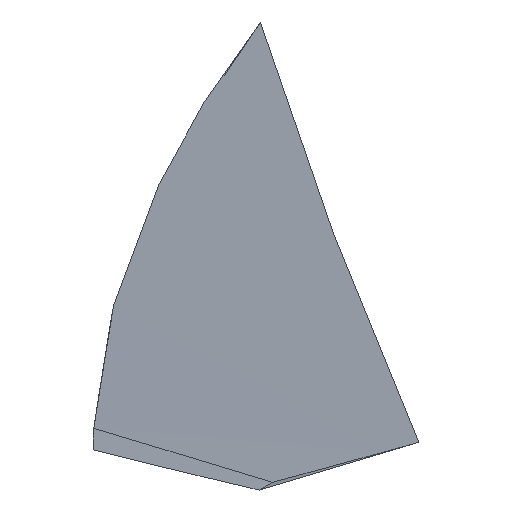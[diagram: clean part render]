
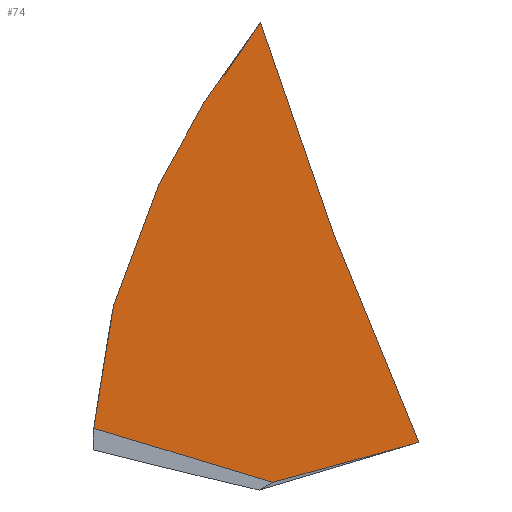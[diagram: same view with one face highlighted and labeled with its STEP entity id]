
A CAD part, isometric view. The second image highlights one B-rep face of the part: STEP entity #74.
In plain terms, the highlighted cylindrical face has radius 99.226 mm (diameter 198.452 mm), a partial arc.
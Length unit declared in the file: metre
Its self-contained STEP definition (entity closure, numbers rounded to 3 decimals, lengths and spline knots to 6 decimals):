
#17=B_SPLINE_CURVE_WITH_KNOTS('',3,(#120,#121,#122,#123),.UNSPECIFIED.,
 .F.,.F.,(4,4),(0.,0.007731),.UNSPECIFIED.);
#20=B_SPLINE_CURVE_WITH_KNOTS('',3,(#140,#141,#142,#143),.UNSPECIFIED.,
 .F.,.F.,(4,4),(0.000887,0.008856),.UNSPECIFIED.);
#21=B_SPLINE_CURVE_WITH_KNOTS('',3,(#146,#147,#148,#149),.UNSPECIFIED.,
 .F.,.F.,(4,4),(0.,0.001377),.UNSPECIFIED.);
#36=ORIENTED_EDGE('',*,*,#46,.T.);
#37=ORIENTED_EDGE('',*,*,#41,.F.);
#38=ORIENTED_EDGE('',*,*,#48,.F.);
#39=ORIENTED_EDGE('',*,*,#44,.F.);
#41=EDGE_CURVE('',#50,#51,#17,.T.);
#44=EDGE_CURVE('',#52,#54,#56,.T.);
#46=EDGE_CURVE('',#52,#51,#20,.T.);
#48=EDGE_CURVE('',#54,#50,#21,.T.);
#50=VERTEX_POINT('',#119);
#51=VERTEX_POINT('',#124);
#52=VERTEX_POINT('',#134);
#54=VERTEX_POINT('',#137);
#56=ELLIPSE('',#91,0.137706,0.099226);
#62=EDGE_LOOP('',(#36,#37,#38,#39));
#67=FACE_BOUND('',#62,.T.);
#69=CYLINDRICAL_SURFACE('',#95,0.099226);
#74=ADVANCED_FACE('',(#67),#69,.F.);
#91=AXIS2_PLACEMENT_3D('',#136,#104,#105);
#95=AXIS2_PLACEMENT_3D('',#150,#113,#114);
#104=DIRECTION('',(0.,0.974,-0.225));
#105=DIRECTION('',(0.972,-0.053,-0.227));
#113=DIRECTION('',(0.674,0.666,-0.32));
#114=DIRECTION('',(-0.703,0.712,0.));
#119=CARTESIAN_POINT('',(-0.159769,-0.021572,-0.046354));
#120=CARTESIAN_POINT('',(-0.159769,-0.021572,-0.046353));
#121=CARTESIAN_POINT('',(-0.158004,-0.019868,-0.047182));
#122=CARTESIAN_POINT('',(-0.156078,-0.018365,-0.048005));
#123=CARTESIAN_POINT('',(-0.153991,-0.017064,-0.048816));
#124=CARTESIAN_POINT('',(-0.153991,-0.017064,-0.048816));
#134=CARTESIAN_POINT('',(-0.158695,-0.022977,-0.046282));
#136=CARTESIAN_POINT('',(-0.13758,-0.001165,0.048197));
#137=CARTESIAN_POINT('',(-0.159757,-0.022922,-0.046042));
#140=CARTESIAN_POINT('',(-0.158695,-0.022977,-0.046282));
#141=CARTESIAN_POINT('',(-0.157164,-0.020977,-0.047126));
#142=CARTESIAN_POINT('',(-0.155595,-0.019006,-0.047971));
#143=CARTESIAN_POINT('',(-0.153991,-0.017064,-0.048816));
#146=CARTESIAN_POINT('',(-0.159757,-0.022922,-0.046042));
#147=CARTESIAN_POINT('',(-0.159768,-0.022471,-0.046146));
#148=CARTESIAN_POINT('',(-0.159772,-0.022022,-0.04625));
#149=CARTESIAN_POINT('',(-0.159769,-0.021572,-0.046354));
#150=CARTESIAN_POINT('',(-0.135955,0.000439,0.047427));
